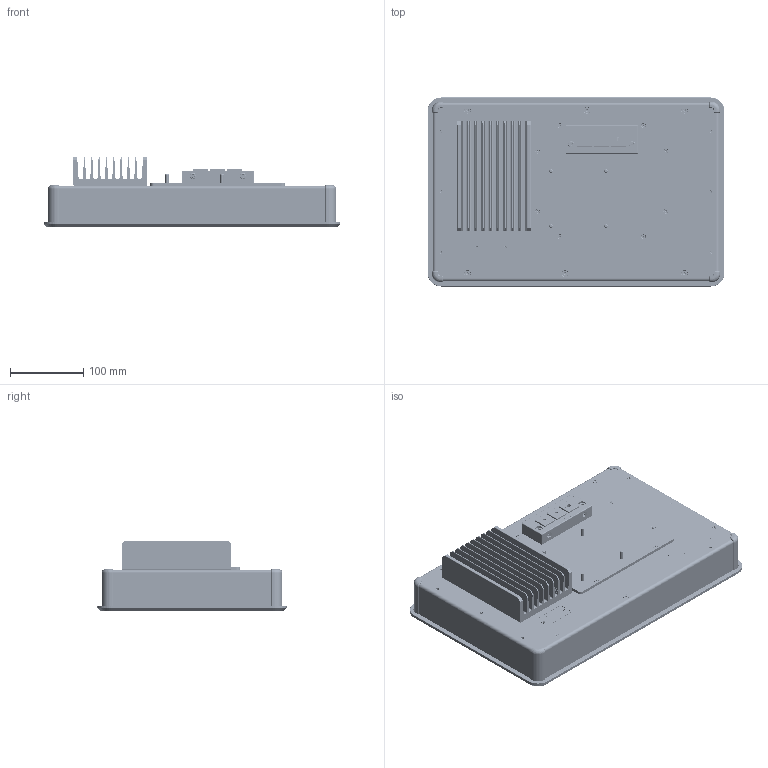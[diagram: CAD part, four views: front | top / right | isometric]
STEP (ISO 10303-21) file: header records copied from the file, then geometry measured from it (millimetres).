
FILE_DESCRIPTION(/* description */ (''),/* implementation_level */ '2;1');
FILE_NAME(/* name */ 'D:\Modelle vereinfacht\notion.D3\15,6 Zoll\778-41963-00\778-41963-00_EXTERN.stp',/* time_stamp */ '2025-07-31T10:09:34+02:00',/* author */ ('Blessing'),/* organization */ (''),/* preprocessor_version */ 'ST-DEVELOPER v18.1',/* originating_system */ 'Autodesk Inventor 2021',/* authorisation */ '');
FILE_SCHEMA (('AUTOMOTIVE_DESIGN { 1 0 10303 214 3 1 1 }'));
Products named in the file (4): Baugruppe22; Baugruppe19_Shrinkwrap_1; Baugruppe18_Shrinkwrap_1; Baugruppe23_Shrinkwrap_1
Assembly tree (3 placements, depth 2):
  Baugruppe22
    Baugruppe19_Shrinkwrap_1
    Baugruppe18_Shrinkwrap_1
    Baugruppe23_Shrinkwrap_1
Bounding box: 404.9 x 257.8 x 96.5 mm (x, y, z)
Volume: 4848495 mm3; surface area: 647746.9 mm2
Topology: 21 solids, 21 shells, 13855 faces, 39036 edges, 25228 vertices
Faces by surface type: plane 9237, cylinder 2863, bspline 1165, cone 446, torus 103, sphere 41
Full cylindrical faces by diameter (mm): 0.4 x36, 0.457 x1, 0.5 x16, 0.6 x3, 0.65 x8, 0.8 x1, 0.95 x8, 1.1 x2, 1.2 x4, 2.156 x2, 2.459 x8, 2.8 x4, 3 x23, 3.01 x1, 3.15 x2, 3.2 x2, 3.242 x6, 3.5 x20, 4 x2, 4.134 x2, 4.22 x8, 4.3 x8, 4.5 x8, 4.7 x2, 4.767 x6, 4.8 x2, 5 x15, 5.38 x6, 5.4 x7, 5.5 x6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
Entity records: 490318 total; most frequent: CARTESIAN_POINT 122760, ORIENTED_EDGE 77948, DIRECTION 66925, EDGE_CURVE 38974, LINE 29271, VECTOR 29271, VERTEX_POINT 25228, AXIS2_PLACEMENT_3D 18827
